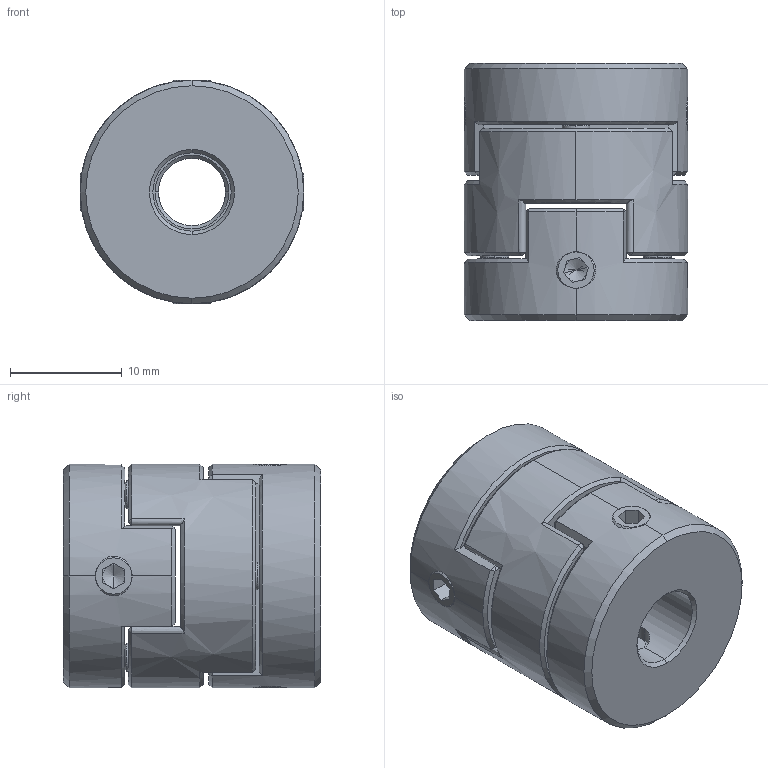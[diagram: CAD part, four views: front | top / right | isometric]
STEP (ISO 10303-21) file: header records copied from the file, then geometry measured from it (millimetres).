
FILE_DESCRIPTION (( 'STEP AP203' ), '1' );
FILE_NAME ('LZ-D-D20L23-6-7.STEP', '2021-10-30T01:44:28', ( '' ), ( '' ), 'SwSTEP 2.0', 'SolidWorks 2018', '' );
FILE_SCHEMA (( 'CONFIG_CONTROL_DESIGN' ));
Length unit declared in the file: millimetre
Products named in the file (1): LZ-D-D20L23-6-7
Bounding box: 20 x 23 x 20 mm (x, y, z)
Volume: 6081.1 mm3; surface area: 4116.8 mm2
Topology: 3 solids, 3 shells, 230 faces, 586 edges, 364 vertices
Faces by surface type: plane 116, cone 54, cylinder 34, bspline 26
Entity records: 9741 total; most frequent: CARTESIAN_POINT 4459, ORIENTED_EDGE 1156, DIRECTION 978, EDGE_CURVE 578, VERTEX_POINT 364, AXIS2_PLACEMENT_3D 357, VECTOR 264, LINE 264
